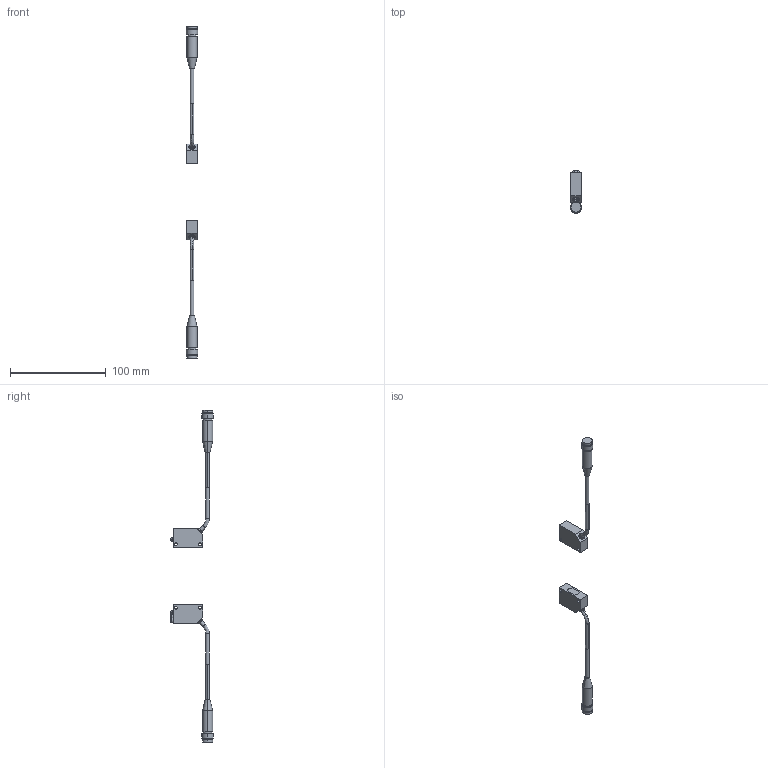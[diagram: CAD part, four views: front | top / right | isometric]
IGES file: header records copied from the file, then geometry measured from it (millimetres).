
Start section: SolidWorks IGES FILE using analytic representation for surfaces
Global section: file name: \\Intra-srv04\開発データ\CAD_Data\CAD委員会\3D電子ｶﾀﾛｸﾞ\製品カタログ（新）\0_IGES\CX-411-J.IGS,41HSolidWorks 2004; native system: by SolidWorks Corporation; preprocessor: Version 5.3; author: yk0651; date: 050905.125503; units: millimetre
Bounding box: 12 x 44.5 x 346 mm (x, y, z)
Volume: 21981.2 mm3; surface area: 10303.1 mm2
Topology: 4 solids, 4 shells, 148 faces, 333 edges, 206 vertices
Faces by surface type: revolution 93, plane 55
